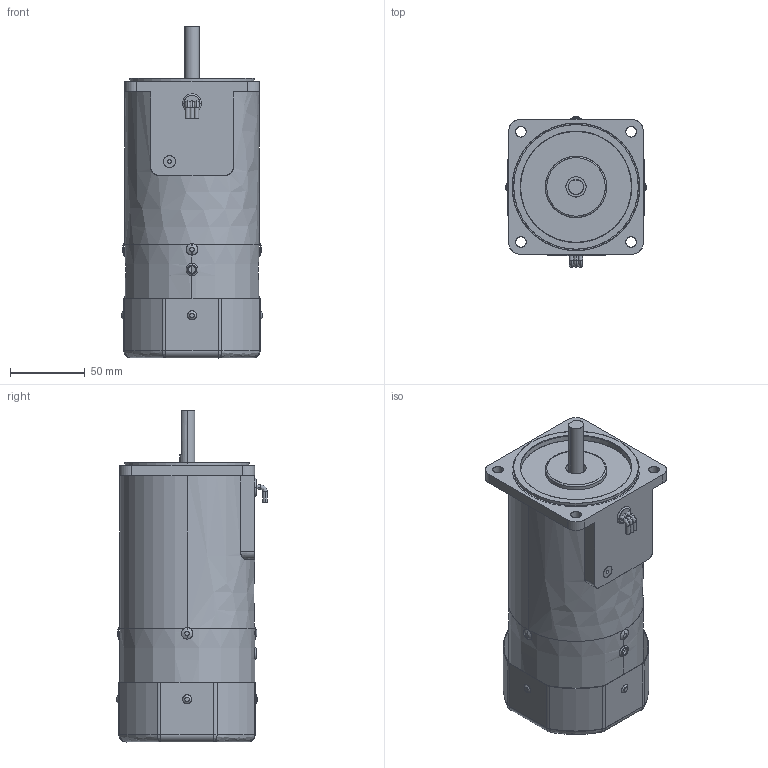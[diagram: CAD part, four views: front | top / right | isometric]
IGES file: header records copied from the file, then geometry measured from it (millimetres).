
Start section: SolidWorks IGES file using analytic representation for surfaces
Bounding box: 94 x 100.5 x 221.5 mm (x, y, z)
Surface area: 180362.3 mm2 (no closed solid volume)
Topology: 0 solids, 0 shells, 280 faces, 6002 edges, 5986 vertices
Faces by surface type: revolution 156, bspline 124
